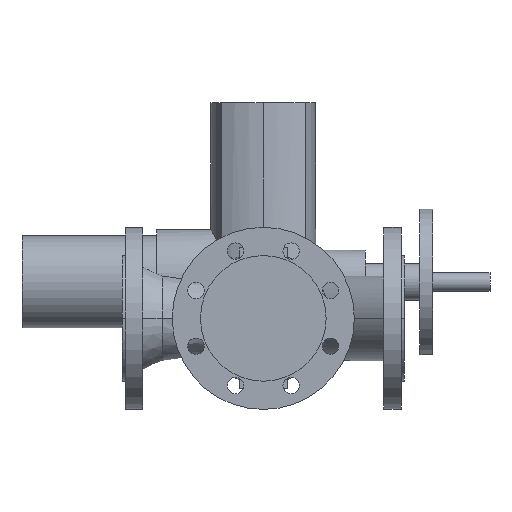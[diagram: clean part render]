
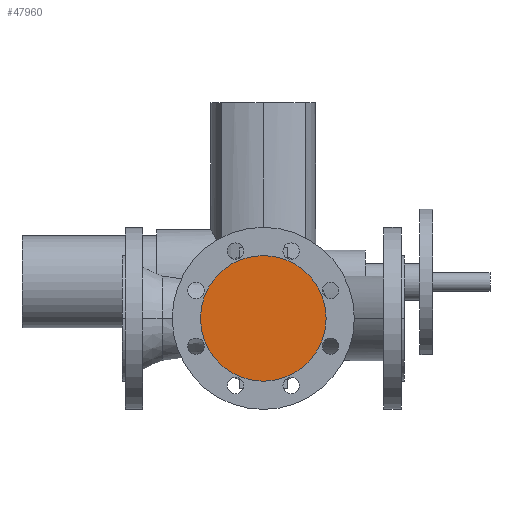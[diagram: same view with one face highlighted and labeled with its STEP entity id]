
A CAD part, front view. The second image highlights one B-rep face of the part: STEP entity #47960.
In plain terms, the highlighted planar face has unit normal (0, -1, 0).
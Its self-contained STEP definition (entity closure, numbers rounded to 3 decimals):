
#3820=CARTESIAN_POINT('',(86.,-130.,0.));
#3830=VERTEX_POINT('',#3820);
#3990=CARTESIAN_POINT('',(224.,-130.,0.));
#4000=VERTEX_POINT('',#3990);
#4030=CARTESIAN_POINT('',(155.,-130.,0.));
#4040=DIRECTION('',(0.,1.,0.));
#4050=DIRECTION('',(1.,0.,0.));
#4060=AXIS2_PLACEMENT_3D('',#4030,#4040,#4050);
#4070=CIRCLE('',#4060,69.);
#4080=EDGE_CURVE('',#3830,#4000,#4070,.T.);
#47860=CARTESIAN_POINT('',(189.5,-130.,0.));
#47870=DIRECTION('',(0.,-1.,0.));
#47880=DIRECTION('',(-1.,0.,0.));
#47890=AXIS2_PLACEMENT_3D('',#47860,#47870,#47880);
#47900=PLANE('',#47890);
#47910=EDGE_CURVE('',#4000,#3830,#4070,.T.);
#47920=ORIENTED_EDGE('',*,*,#47910,.F.);
#47930=ORIENTED_EDGE('',*,*,#4080,.F.);
#47940=EDGE_LOOP('',(#47930,#47920));
#47950=FACE_OUTER_BOUND('',#47940,.T.);
#47960=ADVANCED_FACE('',(#47950),#47900,.T.);
